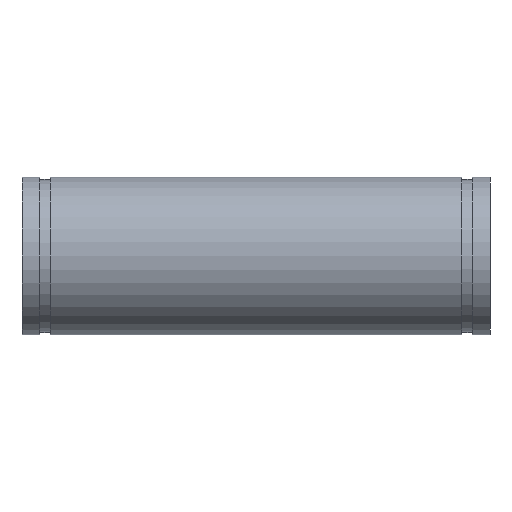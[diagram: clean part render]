
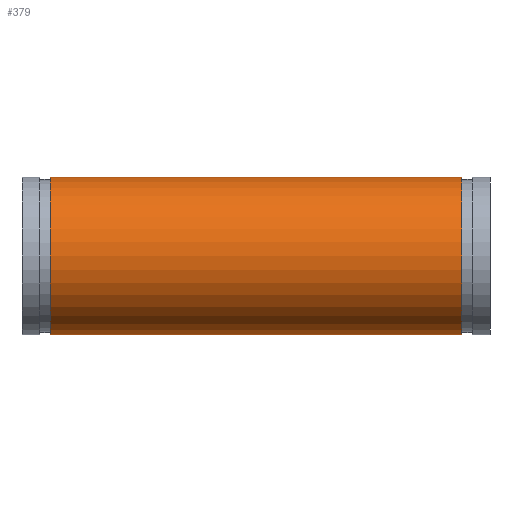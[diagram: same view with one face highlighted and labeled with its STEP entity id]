
A CAD part, left-side view. The second image highlights one B-rep face of the part: STEP entity #379.
In plain terms, the highlighted cylindrical face has radius 70.65 mm (diameter 141.3 mm), a full revolution.
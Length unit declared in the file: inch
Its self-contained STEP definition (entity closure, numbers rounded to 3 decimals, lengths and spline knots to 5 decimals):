
#45=ELLIPSE('',#439,7.26841,2.7815);
#46=ELLIPSE('',#440,7.26841,2.7815);
#47=ELLIPSE('',#441,3.01067,2.7815);
#57=LINE('',#676,#68);
#68=VECTOR('',#544,2.7815);
#79=CYLINDRICAL_SURFACE('',#438,2.7815);
#90=FACE_BOUND('',#131,.T.);
#105=FACE_OUTER_BOUND('',#130,.T.);
#130=EDGE_LOOP('',(#292,#293,#294,#295));
#131=EDGE_LOOP('',(#296,#297,#298));
#154=CIRCLE('',#426,2.7815);
#155=CIRCLE('',#428,2.7815);
#181=VERTEX_POINT('',#653);
#182=VERTEX_POINT('',#656);
#189=VERTEX_POINT('',#677);
#190=VERTEX_POINT('',#678);
#191=VERTEX_POINT('',#680);
#218=EDGE_CURVE('',#181,#181,#154,.T.);
#219=EDGE_CURVE('',#182,#182,#155,.T.);
#228=EDGE_CURVE('',#181,#182,#57,.T.);
#229=EDGE_CURVE('',#189,#190,#45,.T.);
#230=EDGE_CURVE('',#190,#191,#46,.T.);
#231=EDGE_CURVE('',#191,#189,#47,.T.);
#292=ORIENTED_EDGE('',*,*,#218,.T.);
#293=ORIENTED_EDGE('',*,*,#228,.T.);
#294=ORIENTED_EDGE('',*,*,#219,.T.);
#295=ORIENTED_EDGE('',*,*,#228,.F.);
#296=ORIENTED_EDGE('',*,*,#229,.T.);
#297=ORIENTED_EDGE('',*,*,#230,.T.);
#298=ORIENTED_EDGE('',*,*,#231,.T.);
#379=ADVANCED_FACE('',(#105,#90),#79,.T.);
#426=AXIS2_PLACEMENT_3D('',#654,#516,#517);
#428=AXIS2_PLACEMENT_3D('',#657,#520,#521);
#438=AXIS2_PLACEMENT_3D('',#675,#542,#543);
#439=AXIS2_PLACEMENT_3D('',#679,#545,#546);
#440=AXIS2_PLACEMENT_3D('',#681,#547,#548);
#441=AXIS2_PLACEMENT_3D('',#682,#549,#550);
#516=DIRECTION('center_axis',(0.,1.,0.));
#517=DIRECTION('ref_axis',(1.,0.,0.));
#520=DIRECTION('center_axis',(0.,-1.,0.));
#521=DIRECTION('ref_axis',(1.,0.,0.));
#542=DIRECTION('center_axis',(0.,-1.,0.));
#543=DIRECTION('ref_axis',(1.,0.,0.));
#544=DIRECTION('',(0.,1.,0.));
#545=DIRECTION('center_axis',(-0.924,0.383,0.));
#546=DIRECTION('ref_axis',(-0.383,-0.924,0.));
#547=DIRECTION('center_axis',(-0.924,0.383,0.));
#548=DIRECTION('ref_axis',(-0.383,-0.924,0.));
#549=DIRECTION('center_axis',(-0.383,-0.924,0.));
#550=DIRECTION('ref_axis',(0.924,-0.383,0.));
#653=CARTESIAN_POINT('',(-2.7815,-3.,0.));
#654=CARTESIAN_POINT('Origin',(0.,-3.,0.));
#656=CARTESIAN_POINT('',(-2.7815,11.5,0.));
#657=CARTESIAN_POINT('Origin',(0.,11.5,0.));
#675=CARTESIAN_POINT('Origin',(0.,12.5,0.));
#676=CARTESIAN_POINT('',(-2.7815,12.5,0.));
#677=CARTESIAN_POINT('',(0.,0.,2.7815));
#678=CARTESIAN_POINT('',(2.7815,6.71514,0.));
#679=CARTESIAN_POINT('Origin',(0.,0.,0.));
#680=CARTESIAN_POINT('',(0.,0.,-2.7815));
#681=CARTESIAN_POINT('Origin',(0.,0.,0.));
#682=CARTESIAN_POINT('Origin',(0.,0.,
0.));
